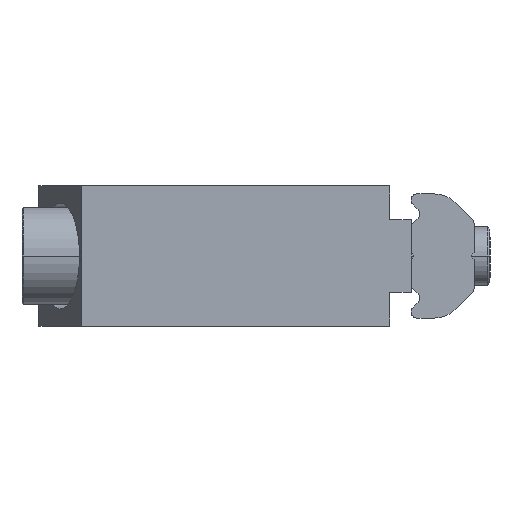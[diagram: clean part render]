
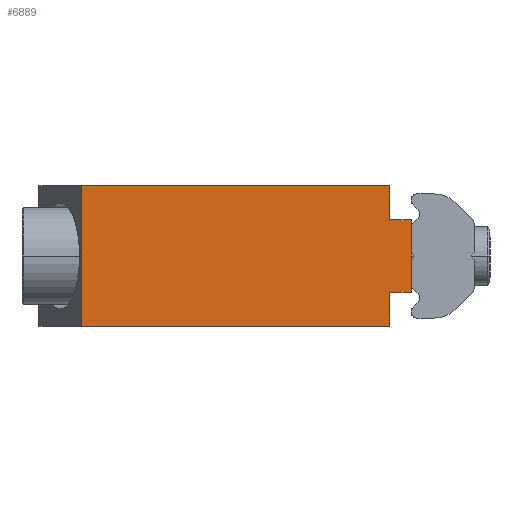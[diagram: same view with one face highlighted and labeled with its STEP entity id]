
A CAD part, left-side view. The second image highlights one B-rep face of the part: STEP entity #6889.
In plain terms, the highlighted planar face has unit normal (-1, 0, 0).
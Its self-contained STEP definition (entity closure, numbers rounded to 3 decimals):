
#17 = ORIENTED_EDGE ( 'NONE', *, *, #6168, .T. ) ;
#100 = DIRECTION ( 'NONE',  ( 0., 0., 1. ) ) ;
#131 = CARTESIAN_POINT ( 'NONE',  ( -74.233, 2.247, 3.597 ) ) ;
#139 = DIRECTION ( 'NONE',  ( 0., -1., 0. ) ) ;
#322 = ORIENTED_EDGE ( 'NONE', *, *, #6902, .T. ) ;
#455 = LINE ( 'NONE', #8415, #4220 ) ;
#1092 = VECTOR ( 'NONE', #4613, 1000. ) ;
#1129 = VECTOR ( 'NONE', #139, 1000. ) ;
#1378 = DIRECTION ( 'NONE',  ( 0., 1., 0. ) ) ;
#1461 = LINE ( 'NONE', #2132, #8787 ) ;
#2027 = PLANE ( 'NONE',  #4353 ) ;
#2086 = VECTOR ( 'NONE', #1378, 1000. ) ;
#2132 = CARTESIAN_POINT ( 'NONE',  ( -74.233, 28.607, 15.597 ) ) ;
#2451 = DIRECTION ( 'NONE',  ( 0., 0., 1. ) ) ;
#2584 = LINE ( 'NONE', #3023, #8008 ) ;
#2766 = VERTEX_POINT ( 'NONE', #7733 ) ;
#2767 = DIRECTION ( 'NONE',  ( -1., 0., 0. ) ) ;
#2844 = ORIENTED_EDGE ( 'NONE', *, *, #5571, .T. ) ;
#2854 = EDGE_LOOP ( 'NONE', ( #6404, #8460, #4769, #2844, #17, #322, #4937, #3761 ) ) ;
#2947 = LINE ( 'NONE', #8168, #8585 ) ;
#3023 = CARTESIAN_POINT ( 'NONE',  ( -74.233, 28.607, 3.597 ) ) ;
#3172 = VERTEX_POINT ( 'NONE', #8672 ) ;
#3248 = EDGE_CURVE ( 'NONE', #3172, #5060, #2947, .T. ) ;
#3474 = DIRECTION ( 'NONE',  ( 0., -1., 0. ) ) ;
#3605 = VERTEX_POINT ( 'NONE', #5063 ) ;
#3761 = ORIENTED_EDGE ( 'NONE', *, *, #7472, .T. ) ;
#3893 = CARTESIAN_POINT ( 'NONE',  ( -74.233, 0.447, 3.597 ) ) ;
#4220 = VECTOR ( 'NONE', #3474, 1000. ) ;
#4353 = AXIS2_PLACEMENT_3D ( 'NONE', #5586, #2767, #7713 ) ;
#4453 = EDGE_CURVE ( 'NONE', #3605, #5060, #1461, .T. ) ;
#4613 = DIRECTION ( 'NONE',  ( 0., 0., 1. ) ) ;
#4736 = CARTESIAN_POINT ( 'NONE',  ( -74.233, 2.247, 3.597 ) ) ;
#4769 = ORIENTED_EDGE ( 'NONE', *, *, #5631, .F. ) ;
#4882 = LINE ( 'NONE', #3893, #1092 ) ;
#4925 = LINE ( 'NONE', #5100, #1129 ) ;
#4937 = ORIENTED_EDGE ( 'NONE', *, *, #7800, .T. ) ;
#5060 = VERTEX_POINT ( 'NONE', #5683 ) ;
#5063 = CARTESIAN_POINT ( 'NONE',  ( -74.233, 28.607, 15.597 ) ) ;
#5100 = CARTESIAN_POINT ( 'NONE',  ( -74.233, 28.607, 3.597 ) ) ;
#5445 = LINE ( 'NONE', #7736, #2086 ) ;
#5571 = EDGE_CURVE ( 'NONE', #2766, #8602, #4925, .T. ) ;
#5586 = CARTESIAN_POINT ( 'NONE',  ( -74.233, 28.607, 3.597 ) ) ;
#5617 = CARTESIAN_POINT ( 'NONE',  ( -74.233, 0.447, 12.697 ) ) ;
#5631 = EDGE_CURVE ( 'NONE', #2766, #3605, #2584, .T. ) ;
#5683 = CARTESIAN_POINT ( 'NONE',  ( -74.233, 2.247, 15.597 ) ) ;
#6104 = FACE_OUTER_BOUND ( 'NONE', #2854, .T. ) ;
#6168 = EDGE_CURVE ( 'NONE', #8602, #6980, #6915, .T. ) ;
#6404 = ORIENTED_EDGE ( 'NONE', *, *, #3248, .T. ) ;
#6423 = VERTEX_POINT ( 'NONE', #8266 ) ;
#6889 = ADVANCED_FACE ( 'NONE', ( #6104 ), #2027, .T. ) ;
#6902 = EDGE_CURVE ( 'NONE', #6980, #6423, #455, .T. ) ;
#6915 = LINE ( 'NONE', #131, #8548 ) ;
#6938 = VERTEX_POINT ( 'NONE', #5617 ) ;
#6980 = VERTEX_POINT ( 'NONE', #7211 ) ;
#7118 = DIRECTION ( 'NONE',  ( 0., -1., 0. ) ) ;
#7211 = CARTESIAN_POINT ( 'NONE',  ( -74.233, 2.247, 6.497 ) ) ;
#7248 = DIRECTION ( 'NONE',  ( 0., 0., 1. ) ) ;
#7472 = EDGE_CURVE ( 'NONE', #6938, #3172, #5445, .T. ) ;
#7713 = DIRECTION ( 'NONE',  ( 0., 0., 1. ) ) ;
#7733 = CARTESIAN_POINT ( 'NONE',  ( -74.233, 28.607, 3.597 ) ) ;
#7736 = CARTESIAN_POINT ( 'NONE',  ( -74.233, 0.447, 12.697 ) ) ;
#7800 = EDGE_CURVE ( 'NONE', #6423, #6938, #4882, .T. ) ;
#8008 = VECTOR ( 'NONE', #7248, 1000. ) ;
#8168 = CARTESIAN_POINT ( 'NONE',  ( -74.233, 2.247, 12.697 ) ) ;
#8266 = CARTESIAN_POINT ( 'NONE',  ( -74.233, 0.447, 6.497 ) ) ;
#8415 = CARTESIAN_POINT ( 'NONE',  ( -74.233, 2.247, 6.497 ) ) ;
#8460 = ORIENTED_EDGE ( 'NONE', *, *, #4453, .F. ) ;
#8548 = VECTOR ( 'NONE', #100, 1000. ) ;
#8585 = VECTOR ( 'NONE', #2451, 1000. ) ;
#8602 = VERTEX_POINT ( 'NONE', #4736 ) ;
#8672 = CARTESIAN_POINT ( 'NONE',  ( -74.233, 2.247, 12.697 ) ) ;
#8787 = VECTOR ( 'NONE', #7118, 1000. ) ;
